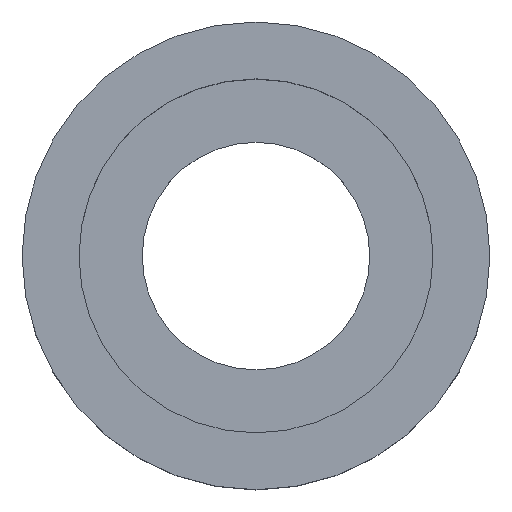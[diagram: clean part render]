
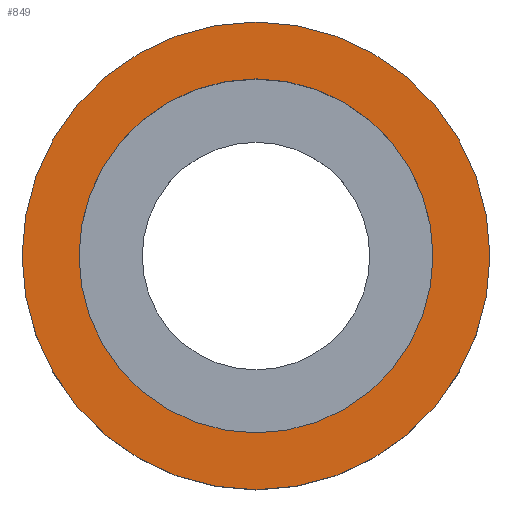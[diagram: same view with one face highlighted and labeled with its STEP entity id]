
A CAD part, top view. The second image highlights one B-rep face of the part: STEP entity #849.
In plain terms, the highlighted planar face has unit normal (0, 0, 1).
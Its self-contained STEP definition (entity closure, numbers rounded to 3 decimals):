
#693 = CYLINDRICAL_SURFACE('',#694,14.);
#694 = AXIS2_PLACEMENT_3D('',#695,#696,#697);
#695 = CARTESIAN_POINT('',(0.,0.,179.));
#696 = DIRECTION('',(-0.,-0.,-1.));
#697 = DIRECTION('',(1.,0.,0.));
#744 = VERTEX_POINT('',#745);
#745 = CARTESIAN_POINT('',(14.,0.,179.));
#766 = EDGE_CURVE('',#744,#744,#767,.T.);
#767 = SURFACE_CURVE('',#768,(#773,#780),.PCURVE_S1.);
#768 = CIRCLE('',#769,14.);
#769 = AXIS2_PLACEMENT_3D('',#770,#771,#772);
#770 = CARTESIAN_POINT('',(0.,0.,179.));
#771 = DIRECTION('',(0.,0.,1.));
#772 = DIRECTION('',(1.,0.,-0.));
#773 = PCURVE('',#693,#774);
#774 = DEFINITIONAL_REPRESENTATION('',(#775),#779);
#775 = LINE('',#776,#777);
#776 = CARTESIAN_POINT('',(-0.,0.));
#777 = VECTOR('',#778,1.);
#778 = DIRECTION('',(-1.,0.));
#779 = ( GEOMETRIC_REPRESENTATION_CONTEXT(2) 
PARAMETRIC_REPRESENTATION_CONTEXT() REPRESENTATION_CONTEXT('2D SPACE',''
  ) );
#780 = PCURVE('',#781,#786);
#781 = PLANE('',#782);
#782 = AXIS2_PLACEMENT_3D('',#783,#784,#785);
#783 = CARTESIAN_POINT('',(0.,0.,179.));
#784 = DIRECTION('',(0.,0.,1.));
#785 = DIRECTION('',(1.,0.,-0.));
#786 = DEFINITIONAL_REPRESENTATION('',(#787),#791);
#787 = CIRCLE('',#788,14.);
#788 = AXIS2_PLACEMENT_2D('',#789,#790);
#789 = CARTESIAN_POINT('',(0.,0.));
#790 = DIRECTION('',(1.,0.));
#791 = ( GEOMETRIC_REPRESENTATION_CONTEXT(2) 
PARAMETRIC_REPRESENTATION_CONTEXT() REPRESENTATION_CONTEXT('2D SPACE',''
  ) );
#849 = ADVANCED_FACE('',(#850,#881),#781,.T.);
#850 = FACE_BOUND('',#851,.T.);
#851 = EDGE_LOOP('',(#852));
#852 = ORIENTED_EDGE('',*,*,#853,.T.);
#853 = EDGE_CURVE('',#854,#854,#856,.T.);
#854 = VERTEX_POINT('',#855);
#855 = CARTESIAN_POINT('',(18.5,0.,179.));
#856 = SURFACE_CURVE('',#857,(#862,#869),.PCURVE_S1.);
#857 = CIRCLE('',#858,18.5);
#858 = AXIS2_PLACEMENT_3D('',#859,#860,#861);
#859 = CARTESIAN_POINT('',(0.,0.,179.));
#860 = DIRECTION('',(0.,0.,1.));
#861 = DIRECTION('',(1.,0.,-0.));
#862 = PCURVE('',#781,#863);
#863 = DEFINITIONAL_REPRESENTATION('',(#864),#868);
#864 = CIRCLE('',#865,18.5);
#865 = AXIS2_PLACEMENT_2D('',#866,#867);
#866 = CARTESIAN_POINT('',(0.,0.));
#867 = DIRECTION('',(1.,0.));
#868 = ( GEOMETRIC_REPRESENTATION_CONTEXT(2) 
PARAMETRIC_REPRESENTATION_CONTEXT() REPRESENTATION_CONTEXT('2D SPACE',''
  ) );
#869 = PCURVE('',#870,#875);
#870 = CYLINDRICAL_SURFACE('',#871,18.5);
#871 = AXIS2_PLACEMENT_3D('',#872,#873,#874);
#872 = CARTESIAN_POINT('',(0.,0.,169.));
#873 = DIRECTION('',(0.,0.,1.));
#874 = DIRECTION('',(1.,0.,-0.));
#875 = DEFINITIONAL_REPRESENTATION('',(#876),#880);
#876 = LINE('',#877,#878);
#877 = CARTESIAN_POINT('',(0.,10.));
#878 = VECTOR('',#879,1.);
#879 = DIRECTION('',(1.,0.));
#880 = ( GEOMETRIC_REPRESENTATION_CONTEXT(2) 
PARAMETRIC_REPRESENTATION_CONTEXT() REPRESENTATION_CONTEXT('2D SPACE',''
  ) );
#881 = FACE_BOUND('',#882,.T.);
#882 = EDGE_LOOP('',(#883));
#883 = ORIENTED_EDGE('',*,*,#766,.F.);
